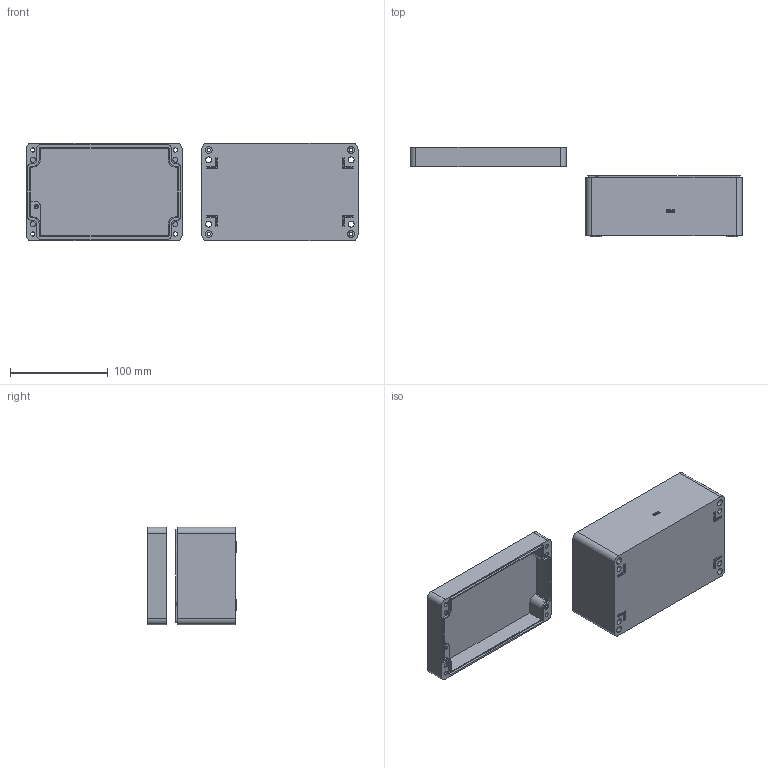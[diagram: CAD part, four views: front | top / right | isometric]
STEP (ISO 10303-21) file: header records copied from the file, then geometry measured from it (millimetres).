
FILE_DESCRIPTION (( 'STEP AP203' ), '1' );
FILE_NAME ('ZX-AL-101608_装配体.STEP', '2022-01-24T08:07:30', ( '微软用户' ), ( '微软中国' ), 'SwSTEP 2.0', 'SolidWorks 2020', '' );
FILE_SCHEMA (( 'CONFIG_CONTROL_DESIGN' ));
Length unit declared in the file: millimetre
Products named in the file (3): ZX-AL-101608_蚾饜极; ZX-AL-101608_奻; ZX-AL-101608_狟
Assembly tree (2 placements, depth 2):
  ZX-AL-101608_蚾饜极
    ZX-AL-101608_狟
    ZX-AL-101608_奻
Bounding box: 340.08 x 91.84 x 100 mm (x, y, z)
Volume: 278573.4 mm3; surface area: 155501.3 mm2
Topology: 2 solids, 2 shells, 673 faces, 1818 edges, 1185 vertices
Faces by surface type: plane 346, cylinder 168, bspline 123, cone 36
Entity records: 26875 total; most frequent: CARTESIAN_POINT 10318, ORIENTED_EDGE 3608, DIRECTION 2954, EDGE_CURVE 1804, VECTOR 1224, LINE 1224, VERTEX_POINT 1185, AXIS2_PLACEMENT_3D 865
